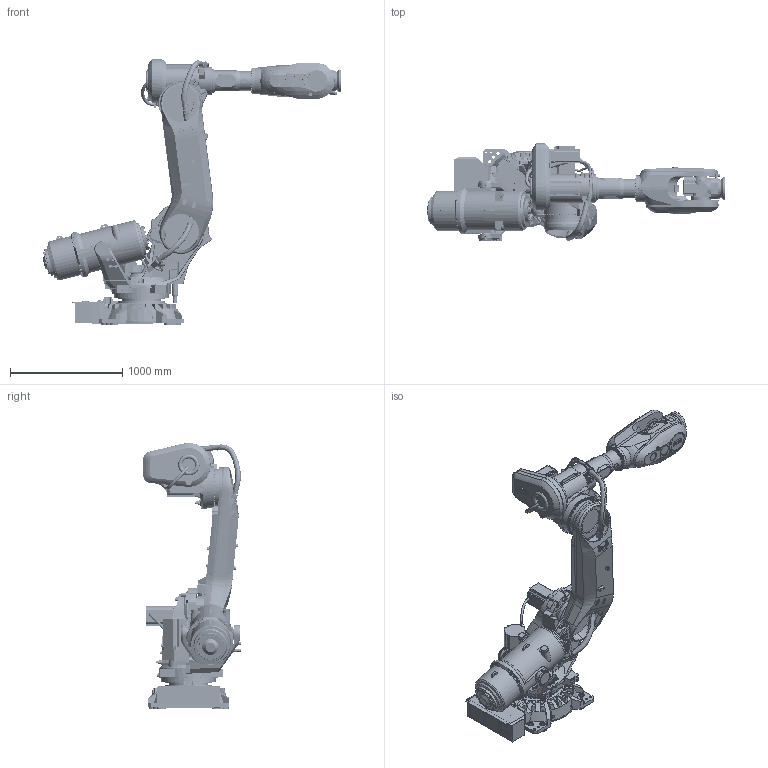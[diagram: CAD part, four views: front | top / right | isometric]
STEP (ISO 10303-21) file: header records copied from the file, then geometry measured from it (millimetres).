
FILE_DESCRIPTION(/* description */ (''),/* implementation_level */ '2;1');
FILE_NAME(/* name */ 'E:\组装完成的图纸\IRB 6700\IRB 6700Inv-300-2.6\IRB 6700Inv-300-2.6.stp',/* time_stamp */ '2023-11-04T20:05:51+08:00',/* author */ ('Administrator'),/* organization */ (''),/* preprocessor_version */ 'ST-DEVELOPER v16.5',/* originating_system */ 'Autodesk Inventor 2017',/* authorisation */ '');
FILE_SCHEMA (('AUTOMOTIVE_DESIGN { 1 0 10303 214 3 1 1 }'));
Products named in the file (16): 部件6; IRB6700Inv_300-260_IRC5_rev00_BASE_CAD; IRB6700Inv_300-260_IRC5_rev00_CYLINDER_CAD; IRB6700Inv_300-260_IRC5_rev00_LINK01_CAD; IRB6700Inv_300-260_IRC5_rev00_LINK01m_CABLE; IRB6700Inv_300-260_IRC5_rev00_LINK02_CAD; IRB6700Inv_300-260_IRC5_rev00_LINK02m_CABLE; IRB6700Inv_300-260_IRC5_rev00_LINK03_CAD; IRB6700Inv_300-260_IRC5_rev00_LINK03m_CABLE; IRB6700Inv_300-260_IRC5_rev00_LINK04_CAD; IRB6700Inv_300-260_IRC5_rev00_LINK05_CAD; IRB6700Inv_300-260_IRC5_rev00_LINK06_CAD; IRB6700Inv_300-260_IRC5_rev00_LOGO1_CAD; IRB6700Inv_300-260_IRC5_rev00_LOGO2_CAD; IRB6700Inv_300-260_IRC5_rev00_LOGO3_CAD; IRB6700Inv_300-260_IRC5_rev00_ROD_CAD
Assembly tree (15 placements, depth 2):
  部件6
    IRB6700Inv_300-260_IRC5_rev00_BASE_CAD
    IRB6700Inv_300-260_IRC5_rev00_CYLINDER_CAD
    IRB6700Inv_300-260_IRC5_rev00_LINK01_CAD
    IRB6700Inv_300-260_IRC5_rev00_LINK01m_CABLE
    IRB6700Inv_300-260_IRC5_rev00_LINK02_CAD
    IRB6700Inv_300-260_IRC5_rev00_LINK02m_CABLE
    IRB6700Inv_300-260_IRC5_rev00_LINK03_CAD
    IRB6700Inv_300-260_IRC5_rev00_LINK03m_CABLE
    IRB6700Inv_300-260_IRC5_rev00_LINK04_CAD
    IRB6700Inv_300-260_IRC5_rev00_LINK05_CAD
    IRB6700Inv_300-260_IRC5_rev00_LINK06_CAD
    IRB6700Inv_300-260_IRC5_rev00_LOGO1_CAD
    IRB6700Inv_300-260_IRC5_rev00_LOGO2_CAD
    IRB6700Inv_300-260_IRC5_rev00_LOGO3_CAD
    IRB6700Inv_300-260_IRC5_rev00_ROD_CAD
Bounding box: 2662.18 x 869.57 x 2370.8 mm (x, y, z)
Volume: 542840488.1 mm3; surface area: 14429602.9 mm2
Topology: 16 solids, 18 shells, 4601 faces, 11689 edges, 7676 vertices
Faces by surface type: plane 3026, cylinder 814, cone 380, bspline 364, torus 15, sphere 2
Full cylindrical faces by diameter (mm): 5 x13, 5.45 x1, 6.5 x2, 6.6 x4, 6.8 x22, 7 x2, 8.3 x4, 8.5 x8, 9 x3, 10.2 x39, 11.05 x2, 11.3 x2, 11.363 x1, 11.366 x1, 12 x10, 13 x4, 13.27 x8, 14 x26, 14.9 x1, 16 x14, 16.27 x24, 17 x13, 17.5 x8, 18 x2, 18.27 x56, 19 x49, 19.75 x2, 20 x3, 20.614 x2, 20.883 x1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
Entity records: 250942 total; most frequent: CARTESIAN_POINT 143392, ORIENTED_EDGE 21944, DIRECTION 20838, EDGE_CURVE 10972, VERTEX_POINT 7569, AXIS2_PLACEMENT_3D 7077, LINE 6684, VECTOR 6684
